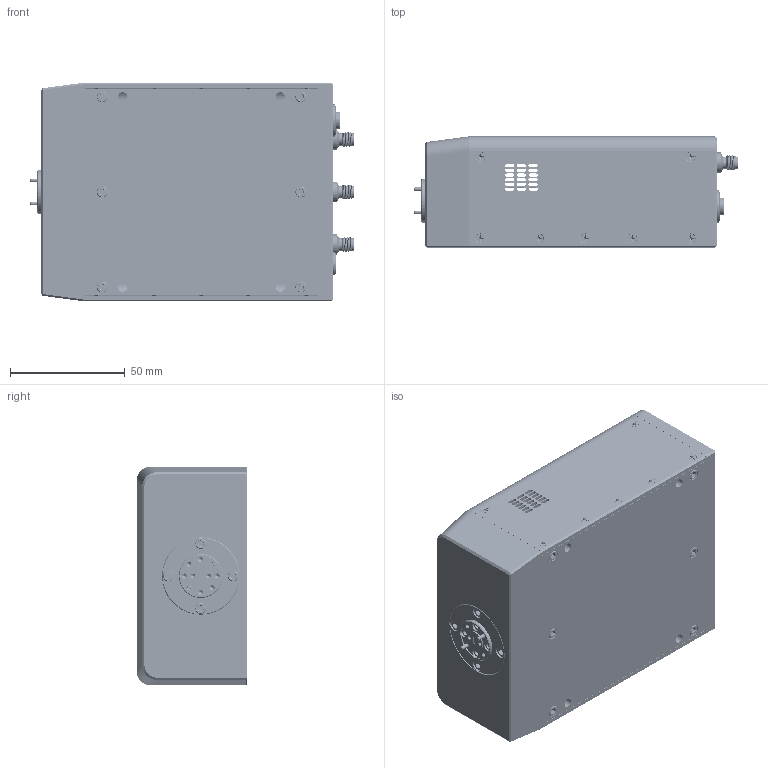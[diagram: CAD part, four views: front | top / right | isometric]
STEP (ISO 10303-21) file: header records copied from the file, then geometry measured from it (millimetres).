
FILE_DESCRIPTION (( 'STEP AP214' ), '1' );
FILE_NAME ('TO-TE-A Mountable.STEP', '2024-10-25T19:38:01', ( '' ), ( '' ), 'SwSTEP 2.0', 'SolidWorks 2021', '' );
FILE_SCHEMA (( 'AUTOMOTIVE_DESIGN' ));
Length unit declared in the file: inch
Products named in the file (1): TO-TE-A Mountable
Bounding box: 140.66 x 48.26 x 95.25 mm (x, y, z)
Volume: 178099.6 mm3; surface area: 117271.1 mm2
Topology: 63 solids, 63 shells, 3757 faces, 9973 edges, 6336 vertices
Faces by surface type: cylinder 1751, plane 938, cone 679, bspline 351, sphere 30, torus 8
Entity records: 219029 total; most frequent: CARTESIAN_POINT 134468, ORIENTED_EDGE 19612, DIRECTION 15141, EDGE_CURVE 9806, VERTEX_POINT 6333, AXIS2_PLACEMENT_3D 5749, EDGE_LOOP 4141, ADVANCED_FACE 3757
